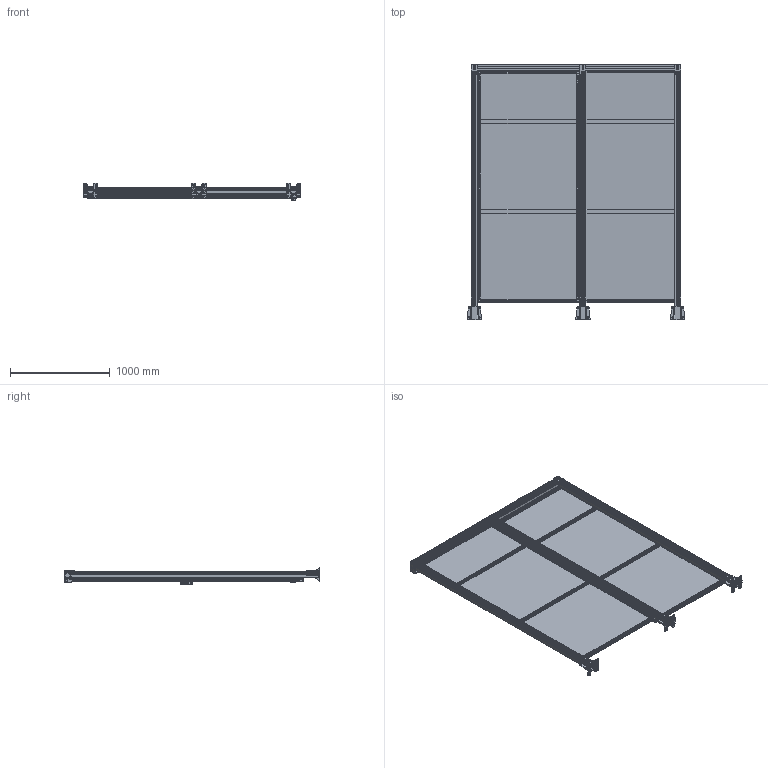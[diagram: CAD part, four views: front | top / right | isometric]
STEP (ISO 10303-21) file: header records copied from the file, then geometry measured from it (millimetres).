
FILE_DESCRIPTION(/* description */ (''),/* implementation_level */ '2;1');
FILE_NAME(/* name */ 'Z:\Marketing\fastline\Porta scorrevole singola H=2500.stp',/* time_stamp */ '2021-10-15T15:29:17+02:00',/* author */ ('mpistoia'),/* organization */ (''),/* preprocessor_version */ 'ST-DEVELOPER v17.2',/* originating_system */ 'Autodesk Inventor 2019',/* authorisation */ '');
FILE_SCHEMA (('AUTOMOTIVE_DESIGN { 1 0 10303 214 3 1 1 }'));
Products named in the file (1): Porta scorrevole singola H=2500
Bounding box: 2185.13 x 2568 x 179.48 mm (x, y, z)
Volume: 26036196.6 mm3; surface area: 20955926.6 mm2
Topology: 10 solids, 28 shells, 6975 faces, 18377 edges, 11780 vertices
Faces by surface type: plane 4119, cylinder 2134, bspline 254, cone 225, sphere 192, torus 51
Full cylindrical faces by diameter (mm): 3.2 x8, 3.25 x4, 4 x20, 4.5 x19, 5 x12, 5.5 x18, 6 x20, 6.1 x4, 6.2 x4, 6.35 x8, 6.5 x12, 6.647 x12, 7 x6, 7.5 x20, 7.9 x24, 8 x31, 8.5 x8, 9 x6, 9.5 x10, 10 x6, 11 x12, 11.63 x14, 13 x16, 13.2 x24, 24.5 x8, 27 x8
Entity records: 503447 total; most frequent: CARTESIAN_POINT 328306, ORIENTED_EDGE 36678, DIRECTION 36512, EDGE_CURVE 18339, AXIS2_PLACEMENT_3D 12313, LINE 11886, VECTOR 11886, VERTEX_POINT 11773
